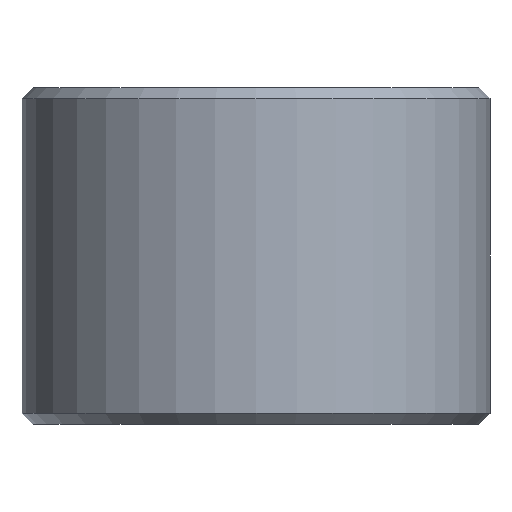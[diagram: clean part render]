
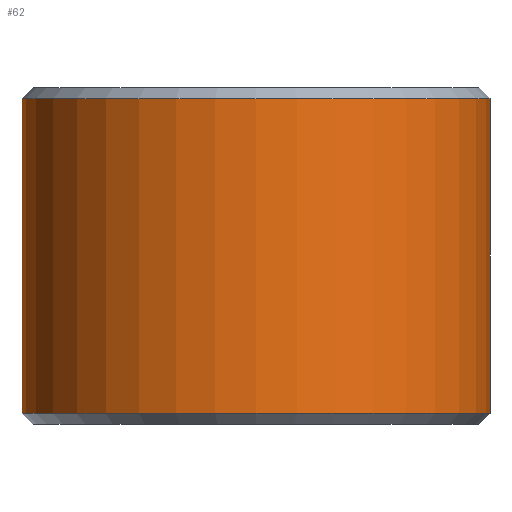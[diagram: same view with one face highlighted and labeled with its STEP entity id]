
A CAD part, front view. The second image highlights one B-rep face of the part: STEP entity #62.
In plain terms, the highlighted cylindrical face has radius 25 mm (diameter 50 mm), a partial arc.
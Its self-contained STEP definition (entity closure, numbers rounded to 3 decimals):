
#14 = ORIENTED_EDGE ( 'NONE', *, *, #268, .T. ) ;
#28 = DIRECTION ( 'NONE',  ( 0., 0., 1. ) ) ;
#36 = DIRECTION ( 'NONE',  ( 1., 0., 0. ) ) ;
#45 = EDGE_CURVE ( 'NONE', #180, #369, #118, .T. ) ;
#55 = DIRECTION ( 'NONE',  ( 0., 0., -1. ) ) ;
#62 = ADVANCED_FACE ( 'NONE', ( #391 ), #88, .T. ) ;
#65 = EDGE_LOOP ( 'NONE', ( #269, #14, #434, #325 ) ) ;
#73 = CIRCLE ( 'NONE', #236, 25. ) ;
#78 = AXIS2_PLACEMENT_3D ( 'NONE', #441, #55, #402 ) ;
#80 = CARTESIAN_POINT ( 'NONE',  ( -25., 0., -16.8 ) ) ;
#88 = CYLINDRICAL_SURFACE ( 'NONE', #78, 25. ) ;
#93 = CARTESIAN_POINT ( 'NONE',  ( -25., 0., 16.8 ) ) ;
#115 = VECTOR ( 'NONE', #129, 1000. ) ;
#118 = LINE ( 'NONE', #245, #188 ) ;
#126 = AXIS2_PLACEMENT_3D ( 'NONE', #362, #28, #36 ) ;
#129 = DIRECTION ( 'NONE',  ( 0., 0., -1. ) ) ;
#131 = CARTESIAN_POINT ( 'NONE',  ( 0., 0., 16.8 ) ) ;
#135 = CARTESIAN_POINT ( 'NONE',  ( 25., 0., 18. ) ) ;
#176 = CARTESIAN_POINT ( 'NONE',  ( 25., 0., 16.8 ) ) ;
#180 = VERTEX_POINT ( 'NONE', #93 ) ;
#182 = EDGE_CURVE ( 'NONE', #448, #230, #187, .T. ) ;
#187 = LINE ( 'NONE', #135, #115 ) ;
#188 = VECTOR ( 'NONE', #390, 1000. ) ;
#196 = CIRCLE ( 'NONE', #126, 25. ) ;
#198 = EDGE_CURVE ( 'NONE', #369, #230, #196, .T. ) ;
#230 = VERTEX_POINT ( 'NONE', #443 ) ;
#236 = AXIS2_PLACEMENT_3D ( 'NONE', #131, #263, #403 ) ;
#245 = CARTESIAN_POINT ( 'NONE',  ( -25., 0., 18. ) ) ;
#263 = DIRECTION ( 'NONE',  ( 0., 0., -1. ) ) ;
#268 = EDGE_CURVE ( 'NONE', #448, #180, #73, .T. ) ;
#269 = ORIENTED_EDGE ( 'NONE', *, *, #182, .F. ) ;
#325 = ORIENTED_EDGE ( 'NONE', *, *, #198, .T. ) ;
#362 = CARTESIAN_POINT ( 'NONE',  ( 0., 0., -16.8 ) ) ;
#369 = VERTEX_POINT ( 'NONE', #80 ) ;
#390 = DIRECTION ( 'NONE',  ( 0., 0., -1. ) ) ;
#391 = FACE_OUTER_BOUND ( 'NONE', #65, .T. ) ;
#402 = DIRECTION ( 'NONE',  ( -1., 0., 0. ) ) ;
#403 = DIRECTION ( 'NONE',  ( 1., 0., 0. ) ) ;
#434 = ORIENTED_EDGE ( 'NONE', *, *, #45, .T. ) ;
#441 = CARTESIAN_POINT ( 'NONE',  ( 0., 0., 18. ) ) ;
#443 = CARTESIAN_POINT ( 'NONE',  ( 25., 0., -16.8 ) ) ;
#448 = VERTEX_POINT ( 'NONE', #176 ) ;
